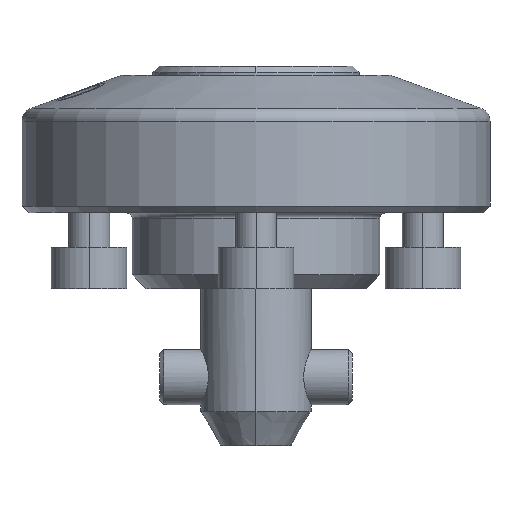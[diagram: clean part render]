
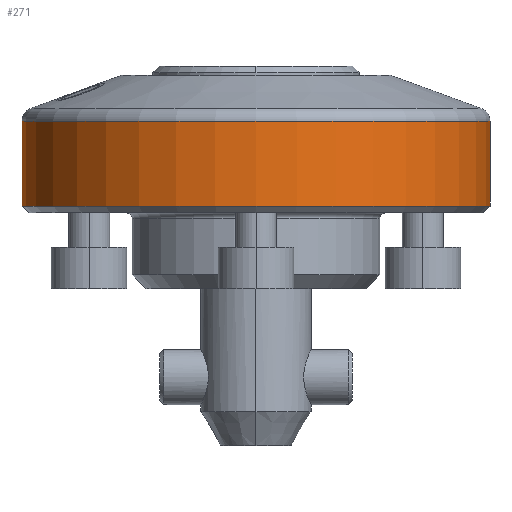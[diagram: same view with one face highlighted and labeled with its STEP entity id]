
A CAD part, left-side view. The second image highlights one B-rep face of the part: STEP entity #271.
In plain terms, the highlighted cylindrical face has radius 17 mm (diameter 34 mm), a partial arc.
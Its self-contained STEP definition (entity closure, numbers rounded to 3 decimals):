
#271 = ADVANCED_FACE ( 'NONE', ( #2644 ), #2506, .T. ) ;
#332 = ORIENTED_EDGE ( 'NONE', *, *, #2249, .T. ) ;
#361 = EDGE_LOOP ( 'NONE', ( #8923, #4886, #4305, #332 ) ) ;
#374 = CIRCLE ( 'NONE', #815, 17. ) ;
#558 = CIRCLE ( 'NONE', #7781, 17. ) ;
#576 = DIRECTION ( 'NONE',  ( 0., 0., -1. ) ) ;
#592 = VERTEX_POINT ( 'NONE', #3236 ) ;
#733 = CARTESIAN_POINT ( 'NONE',  ( 0., 17., 0.5 ) ) ;
#815 = AXIS2_PLACEMENT_3D ( 'NONE', #4006, #1827, #1133 ) ;
#941 = DIRECTION ( 'NONE',  ( 0., 0., -1. ) ) ;
#1133 = DIRECTION ( 'NONE',  ( 0., 1., 0. ) ) ;
#1172 = DIRECTION ( 'NONE',  ( 0., 0., -1. ) ) ;
#1269 = CARTESIAN_POINT ( 'NONE',  ( 0., 0., 6.661 ) ) ;
#1827 = DIRECTION ( 'NONE',  ( 0., 0., 1. ) ) ;
#1949 = DIRECTION ( 'NONE',  ( 0., 1., 0. ) ) ;
#2248 = VERTEX_POINT ( 'NONE', #7247 ) ;
#2249 = EDGE_CURVE ( 'NONE', #6793, #2248, #374, .T. ) ;
#2506 = CYLINDRICAL_SURFACE ( 'NONE', #4336, 17. ) ;
#2644 = FACE_OUTER_BOUND ( 'NONE', #361, .T. ) ;
#3236 = CARTESIAN_POINT ( 'NONE',  ( 0., 17., 6.661 ) ) ;
#3970 = CARTESIAN_POINT ( 'NONE',  ( 0., -17., 6.661 ) ) ;
#4006 = CARTESIAN_POINT ( 'NONE',  ( 0., 0., 0.5 ) ) ;
#4305 = ORIENTED_EDGE ( 'NONE', *, *, #9033, .T. ) ;
#4332 = VERTEX_POINT ( 'NONE', #3970 ) ;
#4336 = AXIS2_PLACEMENT_3D ( 'NONE', #8274, #6696, #1949 ) ;
#4886 = ORIENTED_EDGE ( 'NONE', *, *, #7545, .T. ) ;
#5283 = CARTESIAN_POINT ( 'NONE',  ( 0., 17., -5.5 ) ) ;
#5742 = VECTOR ( 'NONE', #1172, 1000. ) ;
#5892 = CARTESIAN_POINT ( 'NONE',  ( 0., -17., -5.5 ) ) ;
#6620 = LINE ( 'NONE', #5892, #8860 ) ;
#6696 = DIRECTION ( 'NONE',  ( 0., 0., -1. ) ) ;
#6793 = VERTEX_POINT ( 'NONE', #733 ) ;
#7034 = DIRECTION ( 'NONE',  ( 0., -1., 0. ) ) ;
#7247 = CARTESIAN_POINT ( 'NONE',  ( 0., -17., 0.5 ) ) ;
#7545 = EDGE_CURVE ( 'NONE', #4332, #592, #558, .T. ) ;
#7781 = AXIS2_PLACEMENT_3D ( 'NONE', #1269, #576, #7034 ) ;
#8274 = CARTESIAN_POINT ( 'NONE',  ( 0., 0., -5.5 ) ) ;
#8860 = VECTOR ( 'NONE', #941, 1000. ) ;
#8923 = ORIENTED_EDGE ( 'NONE', *, *, #8985, .F. ) ;
#8985 = EDGE_CURVE ( 'NONE', #4332, #2248, #6620, .T. ) ;
#8990 = LINE ( 'NONE', #5283, #5742 ) ;
#9033 = EDGE_CURVE ( 'NONE', #592, #6793, #8990, .T. ) ;
